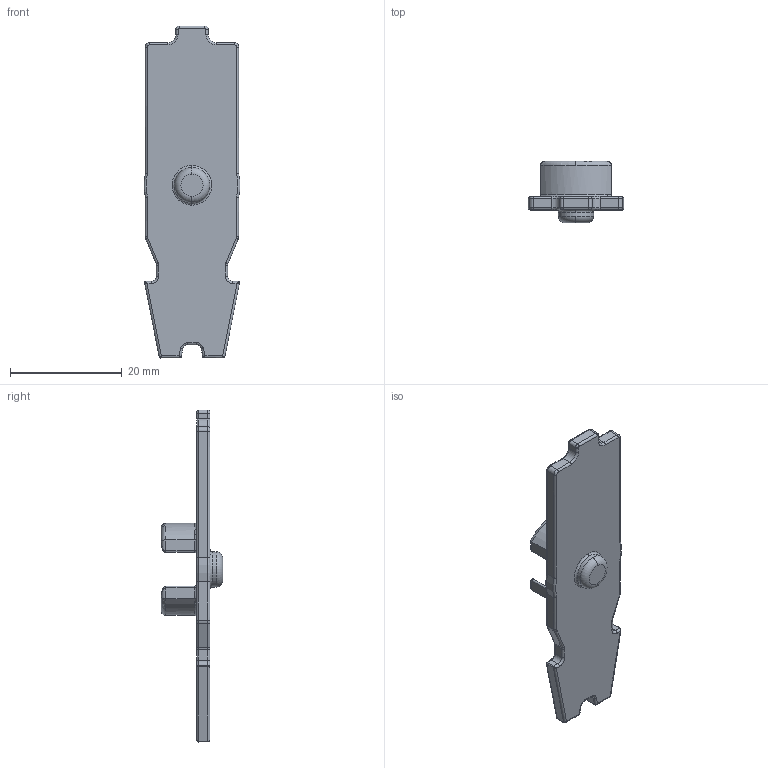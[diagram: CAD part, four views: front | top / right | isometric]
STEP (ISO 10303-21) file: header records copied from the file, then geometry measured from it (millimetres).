
FILE_DESCRIPTION(/* description */ ('STEP AP214'),/* implementation_level */ '2;1');
FILE_NAME(/* name */ 'D:\Ivan''s Printed Mag\Stl\Ivan''s Standard Mag Locking Plate.stp',/* time_stamp */ '2019-01-27T20:55:08-06:00',/* author */ ('johne'),/* organization */ (''),/* preprocessor_version */ 'ST-DEVELOPER v16.13',/* originating_system */ 'Autodesk Inventor 2018',/* authorisation */ '');
FILE_SCHEMA (('AUTOMOTIVE_DESIGN { 1 0 10303 214 3 1 1 }'));
Length unit declared in the file: inch
Products named in the file (1): DefDist_Cuomo_AR15_30_Mag_Spring_Base
Bounding box: 17.21 x 11.02 x 59.54 mm (x, y, z)
Volume: 2508.9 mm3; surface area: 2550.8 mm2
Topology: 1 solids, 1 shells, 182 faces, 421 edges, 228 vertices
Faces by surface type: cylinder 83, torus 50, plane 29, bspline 20
Full cylindrical faces by diameter (mm): 6.35 x1
Entity records: 7088 total; most frequent: CARTESIAN_POINT 3111, DIRECTION 864, ORIENTED_EDGE 808, EDGE_CURVE 404, AXIS2_PLACEMENT_3D 354, VERTEX_POINT 228, CIRCLE 188, EDGE_LOOP 186
